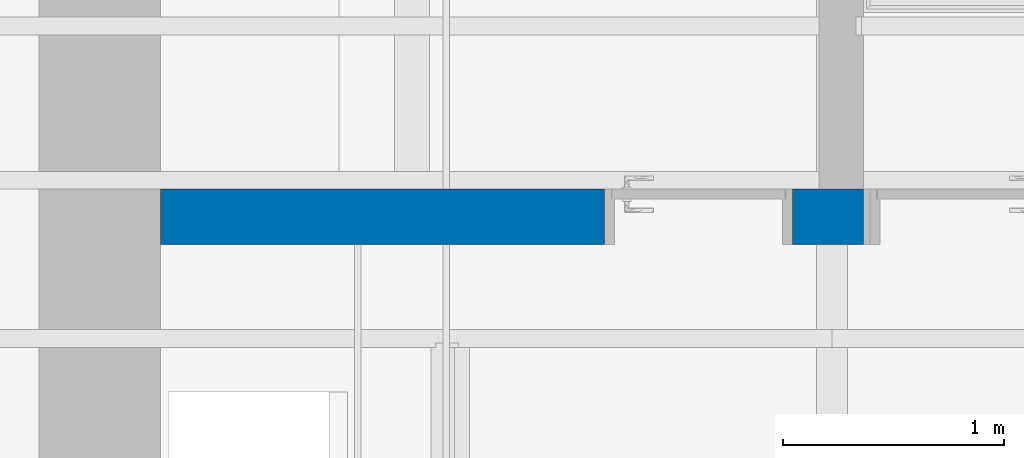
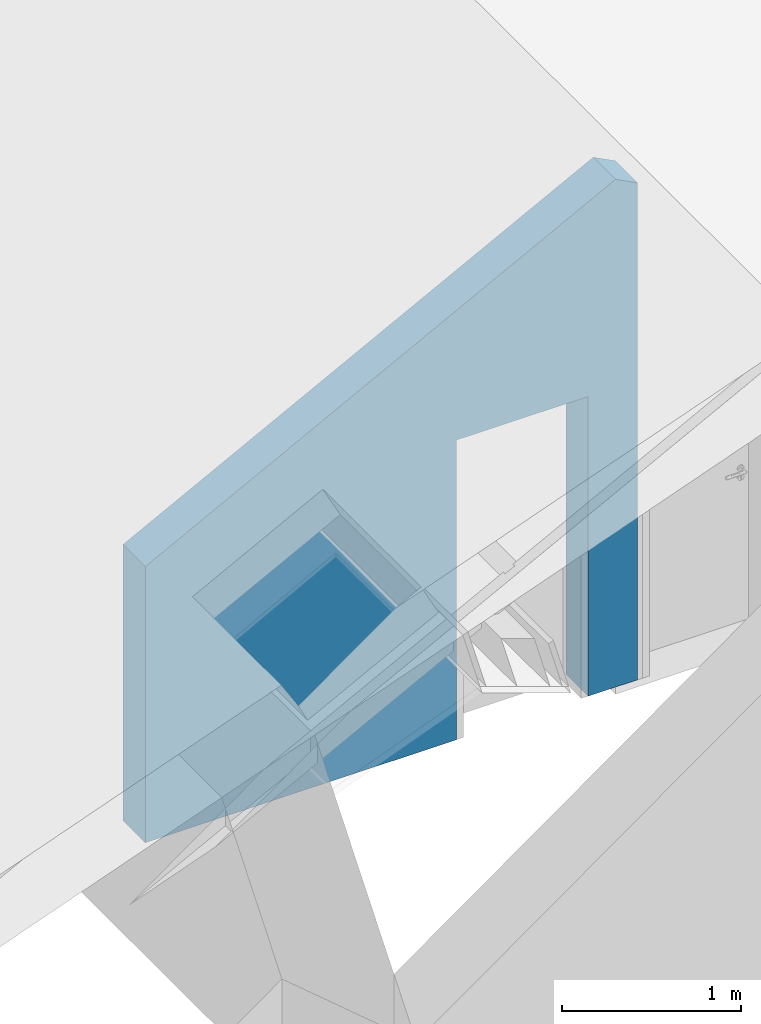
# One storey, part 8 of 18: 1 wall, 1 opening.
"""IFC2X3 building model written with IfcOpenShell, lengths in metres."""

from ifc_helpers import new_model, entity, si_unit, converted_unit, derived_unit, direction, frame, frame_2d, origin, place, context, subcontext, project, spatial, polyline, rectangle, extrude, clip, bounded_halfspace, material, layer, layer_set, layer_usage, type_object, element, save


model = new_model("IFC2X3")

# Units and contexts
model_context = context("Model", 3, precision=1e-05, world=origin(), true_north=direction((6.123233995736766e-17, 1.0)))
body_context = subcontext(model_context, "Body", "Model", "MODEL_VIEW")
ifc_project = project(units=[si_unit("LENGTHUNIT", "METRE"), si_unit("AREAUNIT", "SQUARE_METRE"), si_unit("VOLUMEUNIT", "CUBIC_METRE"), si_unit("POWERUNIT", "WATT"), derived_unit("USERDEFINED", [(si_unit("MASSUNIT", "GRAM", prefix="KILO"), 1), (si_unit("TIMEUNIT", "SECOND"), -3)]), derived_unit("THERMALRESISTANCEUNIT", [(si_unit("MASSUNIT", "GRAM", prefix="KILO"), -1), (si_unit("TIMEUNIT", "SECOND"), 3), (si_unit("THERMODYNAMICTEMPERATUREUNIT", "KELVIN"), 1)]), derived_unit("USERDEFINED", [(si_unit("MASSUNIT", "GRAM", prefix="KILO"), 1), (si_unit("TIMEUNIT", "SECOND"), -2), (si_unit("THERMODYNAMICTEMPERATUREUNIT", "KELVIN"), -1)]), derived_unit("THERMALTRANSMITTANCEUNIT", [(si_unit("MASSUNIT", "GRAM", prefix="KILO"), 1), (si_unit("TIMEUNIT", "SECOND"), -3), (si_unit("THERMODYNAMICTEMPERATUREUNIT", "KELVIN"), -1)]), converted_unit("PLANEANGLEUNIT", "DEGREE", entity("IfcPlaneAngleMeasure", 0.017453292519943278), si_unit("PLANEANGLEUNIT", "RADIAN"), dimensions=[0, 0, 0, 0, 0, 0, 0]), derived_unit("MOMENTOFINERTIAUNIT", [(si_unit("LENGTHUNIT", "METRE"), 4)])], contexts=[model_context])

# Site, building, storey
site_placement = place(None, origin())
site = spatial("IfcSite", under=ifc_project, at=site_placement, Name="Default", CompositionType="ELEMENT")
building_placement = place(site_placement, origin())
building = spatial("IfcBuilding", under=site, at=building_placement, CompositionType="ELEMENT")
storey_placement = place(building_placement, frame((0.0, 0.0, 5.4)))
storey = spatial("IfcBuildingStorey", under=building, at=storey_placement, Name="1. Obergeschoss", CompositionType="ELEMENT", Elevation=5.4)

# Wall, opening
ifc_material = material(Name="Mauerwerk - Ziegel")
ifc_layer = layer(ifc_material, 0.24999999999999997)
ifc_layer_set = layer_set([ifc_layer], Name="Basiswand:Ziegel 250")
ifc_layer_usage = layer_usage(ifc_layer_set, "AXIS2", "POSITIVE", -0.12499999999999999)
wall_type = type_object("IfcWallType", Name="Basiswand:Ziegel 250", PredefinedType="STANDARD", material=ifc_layer_set)
wall_placement = place(storey_placement, frame((30.08672000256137, 23.20727237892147, 0.0)))
wall = element("IfcWallStandardCase", 1, at=wall_placement, inside=storey, type_object=wall_type, material=ifc_layer_usage, Name="Basiswand:Ziegel 250", ObjectType="Basiswand:Ziegel 250", context=body_context, shape_type="Clipping", body=[
    clip(clip(extrude(rectangle(XDim=3.1785405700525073, YDim=0.2500000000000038, at=frame_2d((1.5892702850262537, -7.355227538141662e-16), x_axis=(-1.0, 0.0))), origin(), (0.0, 0.0, 1.0), 3.4651574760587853), bounded_halfspace(frame((0.0, 0.12500000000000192, 1.8848151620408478), z_axis=(-0.4617486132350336, 0.0, 0.8870108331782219), x_axis=(0.0, -1.0, 0.0)), False, frame((0.0, 0.12500000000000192, 1.8848151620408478)), polyline([(0.0, 0.0), (0.0, -0.2499999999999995), (0.8772943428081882, -0.2499999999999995), (0.9072943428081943, -0.2499999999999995), (3.0358093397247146, -0.2499999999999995), (3.0358093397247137, 0.0), (2.97854057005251, 0.0), (0.0, 0.0)]))), bounded_halfspace(frame((3.178540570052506, -0.12499999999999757, 3.3908563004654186), z_axis=(0.4617486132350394, 0.0, 0.8870108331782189), x_axis=(0.0, 1.0, 0.0)), False, frame((3.178540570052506, -0.12499999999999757, 3.3908563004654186)), polyline([(0.0, 0.0), (0.0, 0.2499999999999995), (-0.14273123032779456, 0.2499999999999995), (-0.1427312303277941, 0.0), (0.0, 0.0)]))),
])
opening_placement = place(wall_placement, frame((2.0085405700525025, -0.12500000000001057, -0.18000000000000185)))
element("IfcOpeningElement", 2, at=opening_placement, cuts=wall, Name="TU DF 1 - Rahmenstock flächenbündig:DL - 760 x 2000:1", ObjectType="Opening", context=body_context, shape_type="SweptSolid", body=[
    extrude(rectangle(XDim=2.224999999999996, YDim=0.8499999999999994, at=frame_2d((1.1124999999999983, 0.4250000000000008), x_axis=(-1.0, 0.0))), frame((0.0, 0.0, 0.0), z_axis=(0.0, 1.0, 0.0), x_axis=(0.0, 0.0, 1.0)), (0.0, 0.0, 1.0), 0.24999999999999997),
])

save(model, "model.ifc")
